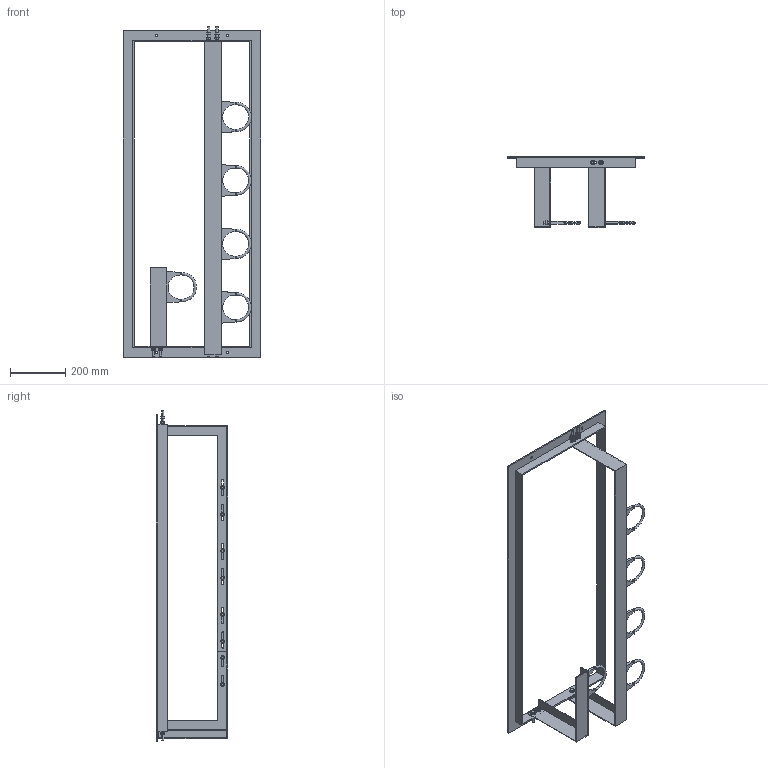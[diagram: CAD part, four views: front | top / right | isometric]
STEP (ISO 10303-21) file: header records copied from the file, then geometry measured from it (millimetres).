
FILE_DESCRIPTION (( 'STEP AP214' ), '1' );
FILE_NAME ('KP_DCF1230S.STEP', '2013-03-22T12:58:51', ( '' ), ( '' ), 'SwSTEP 2.0', 'SolidWorks 2012', '' );
FILE_SCHEMA (( 'AUTOMOTIVE_DESIGN' ));
Length unit declared in the file: millimetre
Products named in the file (1): KP_DCF1230S
Bounding box: 499 x 258 x 1200.4 mm (x, y, z)
Volume: 1960169.2 mm3; surface area: 985254.2 mm2
Topology: 9 solids, 9 shells, 834 faces, 1986 edges, 1228 vertices
Faces by surface type: plane 441, cylinder 239, cone 144, torus 10
Entity records: 27097 total; most frequent: CARTESIAN_POINT 5874, DIRECTION 4133, ORIENTED_EDGE 3972, EDGE_CURVE 1986, AXIS2_PLACEMENT_3D 1599, VERTEX_POINT 1228, EDGE_LOOP 956, VECTOR 935
